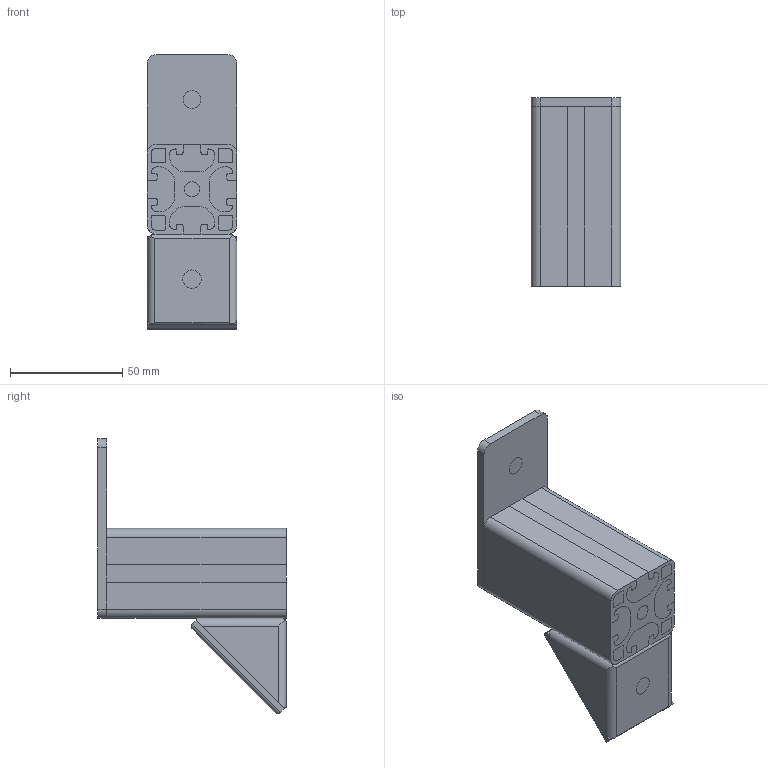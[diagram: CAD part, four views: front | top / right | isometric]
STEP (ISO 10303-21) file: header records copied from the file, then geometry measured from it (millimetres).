
FILE_DESCRIPTION(/* description */ (''),/* implementation_level */ '2;1');
FILE_NAME(/* name */ 'LA-6007-4008-A.stp',/* time_stamp */ '2015-01-28T12:09:26+00:00',/* author */ (''),/* organization */ (''),/* preprocessor_version */ 'ST-DEVELOPER v11',/* originating_system */ 'SIEMENS PLM Software NX 7.5',/* authorisation */ '');
FILE_SCHEMA (('AUTOMOTIVE_DESIGN { 1 0 10303 214 1 1 1 1 }'));
Length unit declared in the file: millimetre
Products named in the file (1): rt13982Avlcj
Bounding box: 40 x 84 x 122.39 mm (x, y, z)
Volume: 181598.1 mm3; surface area: 24710.6 mm2
Topology: 1 solids, 1 shells, 81 faces, 358 edges, 301 vertices
Faces by surface type: plane 57, cylinder 19, bspline 5
Entity records: 4685 total; most frequent: CARTESIAN_POINT 1337, ORIENTED_EDGE 716, DIRECTION 514, EDGE_CURVE 358, VERTEX_POINT 301, AXIS2_PLACEMENT_3D 175, LINE 164, VECTOR 164
